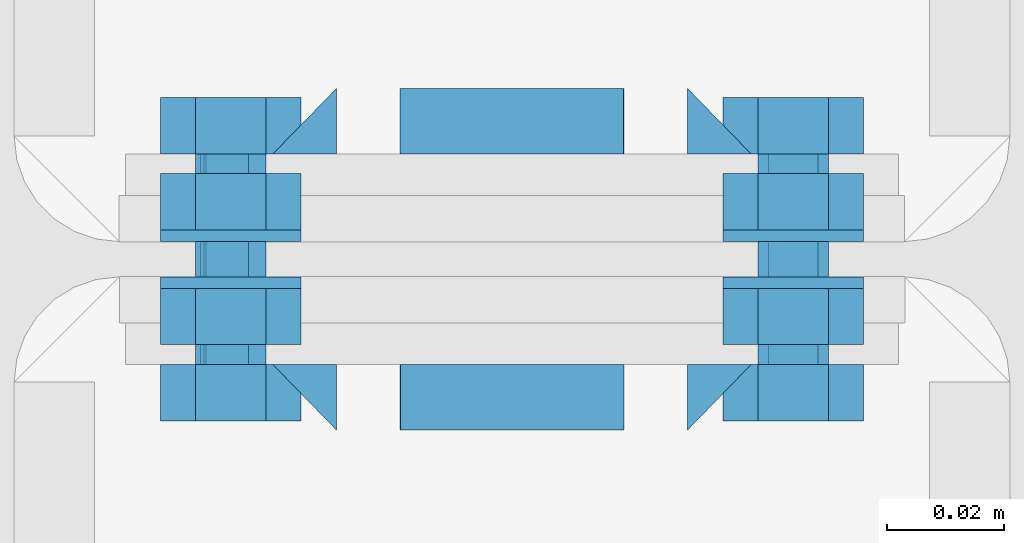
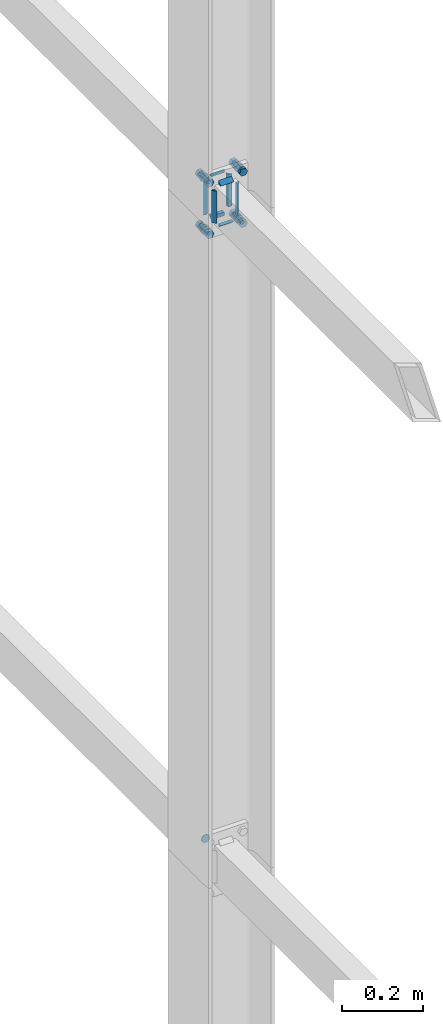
# One storey, part 182 of 251: 32 mechanical fasteners, 16 fasteners.
"""IFC4 building model written with IfcOpenShell, lengths in metres."""

from ifc_helpers import new_model, si_unit, frame, origin_with_axes, place, context, project, spatial, polyline, outline, extrude, type_object, element, save


model = new_model("IFC4")

# Units and contexts
model_context = context("Model", 3, precision=1e-05, world=origin_with_axes())
ifc_project = project(units=[si_unit("LENGTHUNIT", "METRE"), si_unit("AREAUNIT", "SQUARE_METRE"), si_unit("VOLUMEUNIT", "CUBIC_METRE"), si_unit("MASSUNIT", "GRAM", prefix="KILO"), si_unit("TIMEUNIT", "SECOND"), si_unit("PLANEANGLEUNIT", "RADIAN"), si_unit("SOLIDANGLEUNIT", "STERADIAN"), si_unit("THERMODYNAMICTEMPERATUREUNIT", "DEGREE_CELSIUS")], contexts=[model_context])

# Site, building, storey
placement_1 = place(None, origin_with_axes())
site = spatial("IfcSite", under=ifc_project, at=placement_1, Name="Italia", CompositionType="ELEMENT")
building = spatial("IfcBuilding", under=site, at=placement_1, Name="Deposito", CompositionType="ELEMENT")
storey = spatial("IfcBuildingStorey", under=building, at=placement_1, Name="Storey 0", CompositionType="ELEMENT", Elevation=0.0)

# Mechanical fastener
mechanical_fastener_type_1 = type_object("IfcMechanicalFastenerType", Name="Collegamenti -001_-002 -002_-001 -002_-003 -003_-002 -003_-004 -004_-003 -004_-008 -008_-004 -009_-010 -010_-009 -010_-011 -011_-010 -011_-012 -012_-011 -012_-016 -016_-012", PredefinedType="BOLT")
placement_2 = place(placement_1, origin_with_axes())
mechanical_fastener_1_placement = place(placement_2, origin_with_axes())
element("IfcMechanicalFastener", 1, at=mechanical_fastener_1_placement, inside=storey, type_object=mechanical_fastener_type_1, Name="Collegamenti -001_-002 -002_-001 -002_-003 -003_-002 -003_-004 -004_-003 -004_-008 -008_-004 -009_-010 -010_-009 -010_-011 -011_-010 -011_-012 -012_-011 -012_-016 -016_-012", NominalDiameter=0.024, context=model_context, shape_type="SweptSolid", body=[
    extrude(outline(polyline([(0.0, 0.0), (-0.000408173, -0.00310588), (-0.00160599, -0.00600004), (-0.00351334, -0.00848532), (-0.00599861, -0.0103923), (-0.00889397, -0.0115911), (-0.0119991, -0.012), (-0.0151043, -0.0115911), (-0.0179996, -0.0103923), (-0.0204849, -0.00848532), (-0.0223923, -0.00600004), (-0.0235901, -0.00310588), (-0.0239983, 0.0), (-0.0235901, 0.00310588), (-0.0223923, 0.00600004), (-0.0204849, 0.00848532), (-0.0179996, 0.0103923), (-0.0151043, 0.0115911), (-0.0119991, 0.012), (-0.00889397, 0.0115911), (-0.00599861, 0.0103923), (-0.00351334, 0.00848532), (-0.00160599, 0.00600004), (-0.000408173, 0.00310588), (0.0, 0.0)])), frame((19.94, 14.995, 1.078), z_axis=(0.0, 1.0, 0.0), x_axis=(-1.0, 0.0, 0.0)), (0.0, 0.0, 1.0), 0.00199986),
])

# Fasteners
fastener_type_1 = type_object("IfcFastenerType", Name="Collegamenti -001_-002 -002_-001 -002_-003 -003_-002 -003_-004 -004_-003 -004_-008 -008_-004 -009_-010 -010_-009 -010_-011 -011_-010 -011_-012 -012_-011 -012_-016 -016_-012", PredefinedType="WELD")
fastener_1_placement = place(placement_2, origin_with_axes())
element("IfcFastener", 2, at=fastener_1_placement, inside=storey, type_object=fastener_type_1, Name="Collegamenti -001_-002 -002_-001 -002_-003 -003_-002 -003_-004 -004_-003 -004_-008 -008_-004 -009_-010 -010_-009 -010_-011 -011_-010 -011_-012 -012_-011 -012_-016 -016_-012", context=model_context, shape_type="SweptSolid", body=[
    extrude(outline(polyline([(0.0, 0.0), (0.0111732, -0.0108383), (0.0, -0.0108383), (0.0, 0.0)])), frame((20.0191, 14.982, 3.07079), z_axis=(-1.0, 0.0, 0.0), x_axis=(0.0, -1.0, 0.0)), (0.0, 0.0, 1.0), 0.0381012),
])
fastener_type_2 = type_object("IfcFastenerType", Name="Collegamenti -001_-002 -002_-001 -002_-003 -003_-002 -003_-004 -004_-003 -004_-008 -008_-004 -009_-010 -010_-009 -010_-011 -011_-010 -011_-012 -012_-011 -012_-016 -016_-012", PredefinedType="WELD")
fastener_2_placement = place(placement_2, origin_with_axes())
element("IfcFastener", 3, at=fastener_2_placement, inside=storey, type_object=fastener_type_2, Name="Collegamenti -001_-002 -002_-001 -002_-003 -003_-002 -003_-004 -004_-003 -004_-008 -008_-004 -009_-010 -010_-009 -010_-011 -011_-010 -011_-012 -012_-011 -012_-016 -016_-012", context=model_context, shape_type="SweptSolid", body=[
    extrude(outline(polyline([(0.0, 0.0), (-0.0111732, 0.0108376), (0.0, 0.0108376), (0.0, 0.0)])), frame((20.0408, 14.982, 2.95095), z_axis=(0.0, 0.0, 1.0), x_axis=(0.0, 1.0, 0.0)), (0.0, 0.0, 1.0), 0.0980997),
])
fastener_type_3 = type_object("IfcFastenerType", Name="Collegamenti -001_-002 -002_-001 -002_-003 -003_-002 -003_-004 -004_-003 -004_-008 -008_-004 -009_-010 -010_-009 -010_-011 -011_-010 -011_-012 -012_-011 -012_-016 -016_-012", PredefinedType="WELD")
fastener_3_placement = place(placement_2, origin_with_axes())
element("IfcFastener", 4, at=fastener_3_placement, inside=storey, type_object=fastener_type_3, Name="Collegamenti -001_-002 -002_-001 -002_-003 -003_-002 -003_-004 -004_-003 -004_-008 -008_-004 -009_-010 -010_-009 -010_-011 -011_-010 -011_-012 -012_-011 -012_-016 -016_-012", context=model_context, shape_type="SweptSolid", body=[
    extrude(outline(polyline([(0.0, 0.0), (-0.0111732, 0.0108376), (0.0, 0.0108376), (0.0, 0.0)])), frame((19.9592, 14.982, 3.04905), z_axis=(0.0, 0.0, -1.0), x_axis=(0.0, 1.0, 0.0)), (0.0, 0.0, 1.0), 0.0980997),
])
fastener_type_4 = type_object("IfcFastenerType", Name="Collegamenti -001_-002 -002_-001 -002_-003 -003_-002 -003_-004 -004_-003 -004_-008 -008_-004 -009_-010 -010_-009 -010_-011 -011_-010 -011_-012 -012_-011 -012_-016 -016_-012", PredefinedType="WELD")
fastener_4_placement = place(placement_2, origin_with_axes())
element("IfcFastener", 5, at=fastener_4_placement, inside=storey, type_object=fastener_type_4, Name="Collegamenti -001_-002 -002_-001 -002_-003 -003_-002 -003_-004 -004_-003 -004_-008 -008_-004 -009_-010 -010_-009 -010_-011 -011_-010 -011_-012 -012_-011 -012_-016 -016_-012", context=model_context, shape_type="SweptSolid", body=[
    extrude(outline(polyline([(0.0, 0.0), (-0.0111732, 0.0108383), (0.0, 0.0108383), (0.0, 0.0)])), frame((19.9809, 14.982, 2.92921), z_axis=(1.0, 0.0, 0.0), x_axis=(0.0, 1.0, 0.0)), (0.0, 0.0, 1.0), 0.0381012),
])
fastener_type_5 = type_object("IfcFastenerType", Name="Collegamenti -001_-002 -002_-001 -002_-003 -003_-002 -003_-004 -004_-003 -004_-008 -008_-004 -009_-010 -010_-009 -010_-011 -011_-010 -011_-012 -012_-011 -012_-016 -016_-012", PredefinedType="WELD")
fastener_5_placement = place(placement_2, origin_with_axes())
element("IfcFastener", 6, at=fastener_5_placement, inside=storey, type_object=fastener_type_5, Name="Collegamenti -001_-002 -002_-001 -002_-003 -003_-002 -003_-004 -004_-003 -004_-008 -008_-004 -009_-010 -010_-009 -010_-011 -011_-010 -011_-012 -012_-011 -012_-016 -016_-012", context=model_context, shape_type="SweptSolid", body=[
    extrude(outline(polyline([(0.0, 0.0), (0.0111732, -0.0108383), (0.0, -0.0108383), (0.0, 0.0)])), frame((20.0191, 14.982, 3.07079), z_axis=(-1.0, 0.0, 0.0), x_axis=(0.0, -1.0, 0.0)), (0.0, 0.0, 1.0), 0.0381012),
])
fastener_type_6 = type_object("IfcFastenerType", Name="Collegamenti -001_-002 -002_-001 -002_-003 -003_-002 -003_-004 -004_-003 -004_-008 -008_-004 -009_-010 -010_-009 -010_-011 -011_-010 -011_-012 -012_-011 -012_-016 -016_-012", PredefinedType="WELD")
fastener_6_placement = place(placement_2, origin_with_axes())
element("IfcFastener", 7, at=fastener_6_placement, inside=storey, type_object=fastener_type_6, Name="Collegamenti -001_-002 -002_-001 -002_-003 -003_-002 -003_-004 -004_-003 -004_-008 -008_-004 -009_-010 -010_-009 -010_-011 -011_-010 -011_-012 -012_-011 -012_-016 -016_-012", context=model_context, shape_type="SweptSolid", body=[
    extrude(outline(polyline([(0.0, 0.0), (-0.0111732, 0.0108376), (0.0, 0.0108376), (0.0, 0.0)])), frame((20.0408, 14.982, 2.95095), z_axis=(0.0, 0.0, 1.0), x_axis=(0.0, 1.0, 0.0)), (0.0, 0.0, 1.0), 0.0980997),
])
fastener_type_7 = type_object("IfcFastenerType", Name="Collegamenti -001_-002 -002_-001 -002_-003 -003_-002 -003_-004 -004_-003 -004_-008 -008_-004 -009_-010 -010_-009 -010_-011 -011_-010 -011_-012 -012_-011 -012_-016 -016_-012", PredefinedType="WELD")
fastener_7_placement = place(placement_2, origin_with_axes())
element("IfcFastener", 8, at=fastener_7_placement, inside=storey, type_object=fastener_type_7, Name="Collegamenti -001_-002 -002_-001 -002_-003 -003_-002 -003_-004 -004_-003 -004_-008 -008_-004 -009_-010 -010_-009 -010_-011 -011_-010 -011_-012 -012_-011 -012_-016 -016_-012", context=model_context, shape_type="SweptSolid", body=[
    extrude(outline(polyline([(0.0, 0.0), (-0.0111732, 0.0108376), (0.0, 0.0108376), (0.0, 0.0)])), frame((19.9592, 14.982, 3.04905), z_axis=(0.0, 0.0, -1.0), x_axis=(0.0, 1.0, 0.0)), (0.0, 0.0, 1.0), 0.0980997),
])
fastener_type_8 = type_object("IfcFastenerType", Name="Collegamenti -001_-002 -002_-001 -002_-003 -003_-002 -003_-004 -004_-003 -004_-008 -008_-004 -009_-010 -010_-009 -010_-011 -011_-010 -011_-012 -012_-011 -012_-016 -016_-012", PredefinedType="WELD")
fastener_8_placement = place(placement_2, origin_with_axes())
element("IfcFastener", 9, at=fastener_8_placement, inside=storey, type_object=fastener_type_8, Name="Collegamenti -001_-002 -002_-001 -002_-003 -003_-002 -003_-004 -004_-003 -004_-008 -008_-004 -009_-010 -010_-009 -010_-011 -011_-010 -011_-012 -012_-011 -012_-016 -016_-012", context=model_context, shape_type="SweptSolid", body=[
    extrude(outline(polyline([(0.0, 0.0), (-0.0111732, 0.0108383), (0.0, 0.0108383), (0.0, 0.0)])), frame((19.9809, 14.982, 2.92921), z_axis=(1.0, 0.0, 0.0), x_axis=(0.0, 1.0, 0.0)), (0.0, 0.0, 1.0), 0.0381012),
])

# Mechanical fasteners
mechanical_fastener_type_2 = type_object("IfcMechanicalFastenerType", Name="Collegamenti -001_-002 -002_-001 -002_-003 -003_-002 -003_-004 -004_-003 -004_-008 -008_-004 -009_-010 -010_-009 -010_-011 -011_-010 -011_-012 -012_-011 -012_-016 -016_-012", PredefinedType="BOLT")
mechanical_fastener_2_placement = place(placement_2, origin_with_axes())
element("IfcMechanicalFastener", 10, at=mechanical_fastener_2_placement, inside=storey, type_object=mechanical_fastener_type_2, Name="Collegamenti -001_-002 -002_-001 -002_-003 -003_-002 -003_-004 -004_-003 -004_-008 -008_-004 -009_-010 -010_-009 -010_-011 -011_-010 -011_-012 -012_-011 -012_-016 -016_-012", NominalDiameter=0.0119992, context=model_context, shape_type="SweptSolid", body=[
    extrude(outline(polyline([(0.0, 0.0), (-0.012001, 0.0), (-0.0179996, 0.0103922), (-0.012001, 0.0207846), (0.0, 0.0207846), (0.00600052, 0.0103922), (0.0, 0.0)])), frame((19.958, 14.982, 2.91161), z_axis=(0.0, -1.0, 0.0), x_axis=(1.0, 0.0, 0.0)), (0.0, 0.0, 1.0), 0.00960064),
])
mechanical_fastener_type_3 = type_object("IfcMechanicalFastenerType", Name="Collegamenti -001_-002 -002_-001 -002_-003 -003_-002 -003_-004 -004_-003 -004_-008 -008_-004 -009_-010 -010_-009 -010_-011 -011_-010 -011_-012 -012_-011 -012_-016 -016_-012", PredefinedType="BOLT")
mechanical_fastener_3_placement = place(placement_2, origin_with_axes())
element("IfcMechanicalFastener", 11, at=mechanical_fastener_3_placement, inside=storey, type_object=mechanical_fastener_type_3, Name="Collegamenti -001_-002 -002_-001 -002_-003 -003_-002 -003_-004 -004_-003 -004_-008 -008_-004 -009_-010 -010_-009 -010_-011 -011_-010 -011_-012 -012_-011 -012_-016 -016_-012", NominalDiameter=0.012, context=model_context, shape_type="SweptSolid", body=[
    extrude(outline(polyline([(0.0, 0.0), (-0.000204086, -0.00155282), (-0.000804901, -0.00300002), (-0.00175858, -0.00424266), (-0.00300026, -0.00519609), (-0.00444794, -0.00579548), (-0.00600052, -0.00600004), (-0.0075531, -0.00579548), (-0.00900078, -0.00519609), (-0.0102425, -0.00424266), (-0.0111961, -0.00300002), (-0.011797, -0.00155282), (-0.012001, 0.0), (-0.011797, 0.00155282), (-0.0111961, 0.00300002), (-0.0102425, 0.00424266), (-0.00900078, 0.00519609), (-0.0075531, 0.00579548), (-0.00600052, 0.00600004), (-0.00444794, 0.00579548), (-0.00300026, 0.00519609), (-0.00175858, 0.00424266), (-0.000804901, 0.00300002), (-0.000204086, 0.00155282), (0.0, 0.0)])), frame((19.958, 15.021, 2.922), z_axis=(0.0, -1.0, 0.0), x_axis=(1.0, 0.0, 0.0)), (0.0, 0.0, 1.0), 0.0389996),
])
mechanical_fastener_type_4 = type_object("IfcMechanicalFastenerType", Name="Collegamenti -001_-002 -002_-001 -002_-003 -003_-002 -003_-004 -004_-003 -004_-008 -008_-004 -009_-010 -010_-009 -010_-011 -011_-010 -011_-012 -012_-011 -012_-016 -016_-012", PredefinedType="BOLT")
mechanical_fastener_4_placement = place(placement_2, origin_with_axes())
element("IfcMechanicalFastener", 12, at=mechanical_fastener_4_placement, inside=storey, type_object=mechanical_fastener_type_4, Name="Collegamenti -001_-002 -002_-001 -002_-003 -003_-002 -003_-004 -004_-003 -004_-008 -008_-004 -009_-010 -010_-009 -010_-011 -011_-010 -011_-012 -012_-011 -012_-016 -016_-012", NominalDiameter=0.0119992, context=model_context, shape_type="SweptSolid", body=[
    extrude(outline(polyline([(0.0, 0.0), (-0.012001, 0.0), (-0.0179996, 0.0103922), (-0.012001, 0.0207846), (0.0, 0.0207846), (0.00600052, 0.0103922), (0.0, 0.0)])), frame((19.958, 15.0146, 2.91161), z_axis=(0.0, -1.0, 0.0), x_axis=(1.0, 0.0, 0.0)), (0.0, 0.0, 1.0), 0.00959969),
])
mechanical_fastener_type_5 = type_object("IfcMechanicalFastenerType", Name="Collegamenti -001_-002 -002_-001 -002_-003 -003_-002 -003_-004 -004_-003 -004_-008 -008_-004 -009_-010 -010_-009 -010_-011 -011_-010 -011_-012 -012_-011 -012_-016 -016_-012", PredefinedType="BOLT")
mechanical_fastener_5_placement = place(placement_2, origin_with_axes())
element("IfcMechanicalFastener", 13, at=mechanical_fastener_5_placement, inside=storey, type_object=mechanical_fastener_type_5, Name="Collegamenti -001_-002 -002_-001 -002_-003 -003_-002 -003_-004 -004_-003 -004_-008 -008_-004 -009_-010 -010_-009 -010_-011 -011_-010 -011_-012 -012_-011 -012_-016 -016_-012", NominalDiameter=0.024, context=model_context, shape_type="SweptSolid", body=[
    extrude(outline(polyline([(0.0, 0.0), (-0.000408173, -0.00310588), (-0.00160599, -0.00600004), (-0.00351334, -0.00848532), (-0.00599861, -0.0103922), (-0.00889397, -0.0115912), (-0.0119991, -0.0120001), (-0.0151043, -0.0115912), (-0.0179996, -0.0103922), (-0.0204849, -0.00848532), (-0.0223923, -0.00600004), (-0.0235901, -0.00310588), (-0.0239983, 0.0), (-0.0235901, 0.00310588), (-0.0223923, 0.00600004), (-0.0204849, 0.00848532), (-0.0179996, 0.0103922), (-0.0151043, 0.0115912), (-0.0119991, 0.0120001), (-0.00889397, 0.0115912), (-0.00599861, 0.0103922), (-0.00351334, 0.00848532), (-0.00160599, 0.00600004), (-0.000408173, 0.00310588), (0.0, 0.0)])), frame((19.964, 15.005, 2.922), z_axis=(0.0, -1.0, 0.0), x_axis=(1.0, 0.0, 0.0)), (0.0, 0.0, 1.0), 0.00199986),
])
mechanical_fastener_type_6 = type_object("IfcMechanicalFastenerType", Name="Collegamenti -001_-002 -002_-001 -002_-003 -003_-002 -003_-004 -004_-003 -004_-008 -008_-004 -009_-010 -010_-009 -010_-011 -011_-010 -011_-012 -012_-011 -012_-016 -016_-012", PredefinedType="BOLT")
mechanical_fastener_6_placement = place(placement_2, origin_with_axes())
element("IfcMechanicalFastener", 14, at=mechanical_fastener_6_placement, inside=storey, type_object=mechanical_fastener_type_6, Name="Collegamenti -001_-002 -002_-001 -002_-003 -003_-002 -003_-004 -004_-003 -004_-008 -008_-004 -009_-010 -010_-009 -010_-011 -011_-010 -011_-012 -012_-011 -012_-016 -016_-012", NominalDiameter=0.0119992, context=model_context, shape_type="SweptSolid", body=[
    extrude(outline(polyline([(0.0, 0.0), (-0.012001, 0.0), (-0.0180016, 0.0103922), (-0.012001, 0.0207846), (0.0, 0.0207846), (0.00599861, 0.0103922), (0.0, 0.0)])), frame((20.054, 14.982, 2.91161), z_axis=(0.0, -1.0, 0.0), x_axis=(1.0, 0.0, 0.0)), (0.0, 0.0, 1.0), 0.00960064),
])
mechanical_fastener_type_7 = type_object("IfcMechanicalFastenerType", Name="Collegamenti -001_-002 -002_-001 -002_-003 -003_-002 -003_-004 -004_-003 -004_-008 -008_-004 -009_-010 -010_-009 -010_-011 -011_-010 -011_-012 -012_-011 -012_-016 -016_-012", PredefinedType="BOLT")
mechanical_fastener_7_placement = place(placement_2, origin_with_axes())
element("IfcMechanicalFastener", 15, at=mechanical_fastener_7_placement, inside=storey, type_object=mechanical_fastener_type_7, Name="Collegamenti -001_-002 -002_-001 -002_-003 -003_-002 -003_-004 -004_-003 -004_-008 -008_-004 -009_-010 -010_-009 -010_-011 -011_-010 -011_-012 -012_-011 -012_-016 -016_-012", NominalDiameter=0.012, context=model_context, shape_type="SweptSolid", body=[
    extrude(outline(polyline([(0.0, 0.0), (-0.000204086, -0.00155282), (-0.000804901, -0.00300002), (-0.00175858, -0.00424266), (-0.00300026, -0.00519609), (-0.00444794, -0.00579548), (-0.00600052, -0.00600004), (-0.0075531, -0.00579548), (-0.00900078, -0.00519609), (-0.0102425, -0.00424266), (-0.0111961, -0.00300002), (-0.011797, -0.00155282), (-0.012001, 0.0), (-0.011797, 0.00155282), (-0.0111961, 0.00300002), (-0.0102425, 0.00424266), (-0.00900078, 0.00519609), (-0.0075531, 0.00579548), (-0.00600052, 0.00600004), (-0.00444794, 0.00579548), (-0.00300026, 0.00519609), (-0.00175858, 0.00424266), (-0.000804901, 0.00300002), (-0.000204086, 0.00155282), (0.0, 0.0)])), frame((20.054, 15.021, 2.922), z_axis=(0.0, -1.0, 0.0), x_axis=(1.0, 0.0, 0.0)), (0.0, 0.0, 1.0), 0.0389996),
])
mechanical_fastener_type_8 = type_object("IfcMechanicalFastenerType", Name="Collegamenti -001_-002 -002_-001 -002_-003 -003_-002 -003_-004 -004_-003 -004_-008 -008_-004 -009_-010 -010_-009 -010_-011 -011_-010 -011_-012 -012_-011 -012_-016 -016_-012", PredefinedType="BOLT")
mechanical_fastener_8_placement = place(placement_2, origin_with_axes())
element("IfcMechanicalFastener", 16, at=mechanical_fastener_8_placement, inside=storey, type_object=mechanical_fastener_type_8, Name="Collegamenti -001_-002 -002_-001 -002_-003 -003_-002 -003_-004 -004_-003 -004_-008 -008_-004 -009_-010 -010_-009 -010_-011 -011_-010 -011_-012 -012_-011 -012_-016 -016_-012", NominalDiameter=0.0119992, context=model_context, shape_type="SweptSolid", body=[
    extrude(outline(polyline([(0.0, 0.0), (-0.012001, 0.0), (-0.0180016, 0.0103922), (-0.012001, 0.0207846), (0.0, 0.0207846), (0.00599861, 0.0103922), (0.0, 0.0)])), frame((20.054, 15.0146, 2.91161), z_axis=(0.0, -1.0, 0.0), x_axis=(1.0, 0.0, 0.0)), (0.0, 0.0, 1.0), 0.00959969),
])
mechanical_fastener_type_9 = type_object("IfcMechanicalFastenerType", Name="Collegamenti -001_-002 -002_-001 -002_-003 -003_-002 -003_-004 -004_-003 -004_-008 -008_-004 -009_-010 -010_-009 -010_-011 -011_-010 -011_-012 -012_-011 -012_-016 -016_-012", PredefinedType="BOLT")
mechanical_fastener_9_placement = place(placement_2, origin_with_axes())
element("IfcMechanicalFastener", 17, at=mechanical_fastener_9_placement, inside=storey, type_object=mechanical_fastener_type_9, Name="Collegamenti -001_-002 -002_-001 -002_-003 -003_-002 -003_-004 -004_-003 -004_-008 -008_-004 -009_-010 -010_-009 -010_-011 -011_-010 -011_-012 -012_-011 -012_-016 -016_-012", NominalDiameter=0.024, context=model_context, shape_type="SweptSolid", body=[
    extrude(outline(polyline([(0.0, 0.0), (-0.000408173, -0.00310588), (-0.00160599, -0.00600004), (-0.00351334, -0.00848532), (-0.00599861, -0.0103922), (-0.00889397, -0.0115912), (-0.0119991, -0.0120001), (-0.0151043, -0.0115912), (-0.0179996, -0.0103922), (-0.0204849, -0.00848532), (-0.0223923, -0.00600004), (-0.0235901, -0.00310588), (-0.0239983, 0.0), (-0.0235901, 0.00310588), (-0.0223923, 0.00600004), (-0.0204849, 0.00848532), (-0.0179996, 0.0103922), (-0.0151043, 0.0115912), (-0.0119991, 0.0120001), (-0.00889397, 0.0115912), (-0.00599861, 0.0103922), (-0.00351334, 0.00848532), (-0.00160599, 0.00600004), (-0.000408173, 0.00310588), (0.0, 0.0)])), frame((20.06, 15.005, 2.922), z_axis=(0.0, -1.0, 0.0), x_axis=(1.0, 0.0, 0.0)), (0.0, 0.0, 1.0), 0.00199986),
])
mechanical_fastener_type_10 = type_object("IfcMechanicalFastenerType", Name="Collegamenti -001_-002 -002_-001 -002_-003 -003_-002 -003_-004 -004_-003 -004_-008 -008_-004 -009_-010 -010_-009 -010_-011 -011_-010 -011_-012 -012_-011 -012_-016 -016_-012", PredefinedType="BOLT")
mechanical_fastener_10_placement = place(placement_2, origin_with_axes())
element("IfcMechanicalFastener", 18, at=mechanical_fastener_10_placement, inside=storey, type_object=mechanical_fastener_type_10, Name="Collegamenti -001_-002 -002_-001 -002_-003 -003_-002 -003_-004 -004_-003 -004_-008 -008_-004 -009_-010 -010_-009 -010_-011 -011_-010 -011_-012 -012_-011 -012_-016 -016_-012", NominalDiameter=0.0119992, context=model_context, shape_type="SweptSolid", body=[
    extrude(outline(polyline([(0.0, 0.0), (-0.012001, 0.0), (-0.0179996, 0.0103924), (-0.012001, 0.0207846), (0.0, 0.0207846), (0.00600052, 0.0103924), (0.0, 0.0)])), frame((19.958, 14.982, 3.06761), z_axis=(0.0, -1.0, 0.0), x_axis=(1.0, 0.0, 0.0)), (0.0, 0.0, 1.0), 0.00960064),
])
mechanical_fastener_type_11 = type_object("IfcMechanicalFastenerType", Name="Collegamenti -001_-002 -002_-001 -002_-003 -003_-002 -003_-004 -004_-003 -004_-008 -008_-004 -009_-010 -010_-009 -010_-011 -011_-010 -011_-012 -012_-011 -012_-016 -016_-012", PredefinedType="BOLT")
mechanical_fastener_11_placement = place(placement_2, origin_with_axes())
element("IfcMechanicalFastener", 19, at=mechanical_fastener_11_placement, inside=storey, type_object=mechanical_fastener_type_11, Name="Collegamenti -001_-002 -002_-001 -002_-003 -003_-002 -003_-004 -004_-003 -004_-008 -008_-004 -009_-010 -010_-009 -010_-011 -011_-010 -011_-012 -012_-011 -012_-016 -016_-012", NominalDiameter=0.012, context=model_context, shape_type="SweptSolid", body=[
    extrude(outline(polyline([(0.0, 0.0), (-0.000204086, -0.00155282), (-0.000804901, -0.00300002), (-0.00175858, -0.00424266), (-0.00300026, -0.00519609), (-0.00444794, -0.00579548), (-0.00600052, -0.00600004), (-0.0075531, -0.00579548), (-0.00900078, -0.00519609), (-0.0102425, -0.00424266), (-0.0111961, -0.00300002), (-0.011797, -0.00155282), (-0.012001, 0.0), (-0.011797, 0.00155282), (-0.0111961, 0.00300002), (-0.0102425, 0.00424266), (-0.00900078, 0.00519609), (-0.0075531, 0.00579548), (-0.00600052, 0.00600004), (-0.00444794, 0.00579548), (-0.00300026, 0.00519609), (-0.00175858, 0.00424266), (-0.000804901, 0.00300002), (-0.000204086, 0.00155282), (0.0, 0.0)])), frame((19.958, 15.021, 3.078), z_axis=(0.0, -1.0, 0.0), x_axis=(1.0, 0.0, 0.0)), (0.0, 0.0, 1.0), 0.0389996),
])
mechanical_fastener_type_12 = type_object("IfcMechanicalFastenerType", Name="Collegamenti -001_-002 -002_-001 -002_-003 -003_-002 -003_-004 -004_-003 -004_-008 -008_-004 -009_-010 -010_-009 -010_-011 -011_-010 -011_-012 -012_-011 -012_-016 -016_-012", PredefinedType="BOLT")
mechanical_fastener_12_placement = place(placement_2, origin_with_axes())
element("IfcMechanicalFastener", 20, at=mechanical_fastener_12_placement, inside=storey, type_object=mechanical_fastener_type_12, Name="Collegamenti -001_-002 -002_-001 -002_-003 -003_-002 -003_-004 -004_-003 -004_-008 -008_-004 -009_-010 -010_-009 -010_-011 -011_-010 -011_-012 -012_-011 -012_-016 -016_-012", NominalDiameter=0.0119992, context=model_context, shape_type="SweptSolid", body=[
    extrude(outline(polyline([(0.0, 0.0), (-0.012001, 0.0), (-0.0179996, 0.0103924), (-0.012001, 0.0207846), (0.0, 0.0207846), (0.00600052, 0.0103924), (0.0, 0.0)])), frame((19.958, 15.0146, 3.06761), z_axis=(0.0, -1.0, 0.0), x_axis=(1.0, 0.0, 0.0)), (0.0, 0.0, 1.0), 0.00959969),
])
mechanical_fastener_type_13 = type_object("IfcMechanicalFastenerType", Name="Collegamenti -001_-002 -002_-001 -002_-003 -003_-002 -003_-004 -004_-003 -004_-008 -008_-004 -009_-010 -010_-009 -010_-011 -011_-010 -011_-012 -012_-011 -012_-016 -016_-012", PredefinedType="BOLT")
mechanical_fastener_13_placement = place(placement_2, origin_with_axes())
element("IfcMechanicalFastener", 21, at=mechanical_fastener_13_placement, inside=storey, type_object=mechanical_fastener_type_13, Name="Collegamenti -001_-002 -002_-001 -002_-003 -003_-002 -003_-004 -004_-003 -004_-008 -008_-004 -009_-010 -010_-009 -010_-011 -011_-010 -011_-012 -012_-011 -012_-016 -016_-012", NominalDiameter=0.024, context=model_context, shape_type="SweptSolid", body=[
    extrude(outline(polyline([(0.0, 0.0), (-0.000408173, -0.00310588), (-0.00160599, -0.00600004), (-0.00351334, -0.00848532), (-0.00599861, -0.0103922), (-0.00889397, -0.0115912), (-0.0119991, -0.0120001), (-0.0151043, -0.0115912), (-0.0179996, -0.0103922), (-0.0204849, -0.00848532), (-0.0223923, -0.00600004), (-0.0235901, -0.00310588), (-0.0239983, 0.0), (-0.0235901, 0.00310588), (-0.0223923, 0.00600004), (-0.0204849, 0.00848532), (-0.0179996, 0.0103922), (-0.0151043, 0.0115912), (-0.0119991, 0.0120001), (-0.00889397, 0.0115912), (-0.00599861, 0.0103922), (-0.00351334, 0.00848532), (-0.00160599, 0.00600004), (-0.000408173, 0.00310588), (0.0, 0.0)])), frame((19.964, 15.005, 3.078), z_axis=(0.0, -1.0, 0.0), x_axis=(1.0, 0.0, 0.0)), (0.0, 0.0, 1.0), 0.00199986),
])
mechanical_fastener_type_14 = type_object("IfcMechanicalFastenerType", Name="Collegamenti -001_-002 -002_-001 -002_-003 -003_-002 -003_-004 -004_-003 -004_-008 -008_-004 -009_-010 -010_-009 -010_-011 -011_-010 -011_-012 -012_-011 -012_-016 -016_-012", PredefinedType="BOLT")
mechanical_fastener_14_placement = place(placement_2, origin_with_axes())
element("IfcMechanicalFastener", 22, at=mechanical_fastener_14_placement, inside=storey, type_object=mechanical_fastener_type_14, Name="Collegamenti -001_-002 -002_-001 -002_-003 -003_-002 -003_-004 -004_-003 -004_-008 -008_-004 -009_-010 -010_-009 -010_-011 -011_-010 -011_-012 -012_-011 -012_-016 -016_-012", NominalDiameter=0.0119992, context=model_context, shape_type="SweptSolid", body=[
    extrude(outline(polyline([(0.0, 0.0), (-0.012001, 0.0), (-0.0180016, 0.0103924), (-0.012001, 0.0207846), (0.0, 0.0207846), (0.00599861, 0.0103924), (0.0, 0.0)])), frame((20.054, 14.982, 3.06761), z_axis=(0.0, -1.0, 0.0), x_axis=(1.0, 0.0, 0.0)), (0.0, 0.0, 1.0), 0.00960064),
])
mechanical_fastener_type_15 = type_object("IfcMechanicalFastenerType", Name="Collegamenti -001_-002 -002_-001 -002_-003 -003_-002 -003_-004 -004_-003 -004_-008 -008_-004 -009_-010 -010_-009 -010_-011 -011_-010 -011_-012 -012_-011 -012_-016 -016_-012", PredefinedType="BOLT")
mechanical_fastener_15_placement = place(placement_2, origin_with_axes())
element("IfcMechanicalFastener", 23, at=mechanical_fastener_15_placement, inside=storey, type_object=mechanical_fastener_type_15, Name="Collegamenti -001_-002 -002_-001 -002_-003 -003_-002 -003_-004 -004_-003 -004_-008 -008_-004 -009_-010 -010_-009 -010_-011 -011_-010 -011_-012 -012_-011 -012_-016 -016_-012", NominalDiameter=0.012, context=model_context, shape_type="SweptSolid", body=[
    extrude(outline(polyline([(0.0, 0.0), (-0.000204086, -0.00155282), (-0.000804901, -0.00300002), (-0.00175858, -0.00424266), (-0.00300026, -0.00519609), (-0.00444794, -0.00579548), (-0.00600052, -0.00600004), (-0.0075531, -0.00579548), (-0.00900078, -0.00519609), (-0.0102425, -0.00424266), (-0.0111961, -0.00300002), (-0.011797, -0.00155282), (-0.012001, 0.0), (-0.011797, 0.00155282), (-0.0111961, 0.00300002), (-0.0102425, 0.00424266), (-0.00900078, 0.00519609), (-0.0075531, 0.00579548), (-0.00600052, 0.00600004), (-0.00444794, 0.00579548), (-0.00300026, 0.00519609), (-0.00175858, 0.00424266), (-0.000804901, 0.00300002), (-0.000204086, 0.00155282), (0.0, 0.0)])), frame((20.054, 15.021, 3.078), z_axis=(0.0, -1.0, 0.0), x_axis=(1.0, 0.0, 0.0)), (0.0, 0.0, 1.0), 0.0389996),
])
mechanical_fastener_type_16 = type_object("IfcMechanicalFastenerType", Name="Collegamenti -001_-002 -002_-001 -002_-003 -003_-002 -003_-004 -004_-003 -004_-008 -008_-004 -009_-010 -010_-009 -010_-011 -011_-010 -011_-012 -012_-011 -012_-016 -016_-012", PredefinedType="BOLT")
mechanical_fastener_16_placement = place(placement_2, origin_with_axes())
element("IfcMechanicalFastener", 24, at=mechanical_fastener_16_placement, inside=storey, type_object=mechanical_fastener_type_16, Name="Collegamenti -001_-002 -002_-001 -002_-003 -003_-002 -003_-004 -004_-003 -004_-008 -008_-004 -009_-010 -010_-009 -010_-011 -011_-010 -011_-012 -012_-011 -012_-016 -016_-012", NominalDiameter=0.0119992, context=model_context, shape_type="SweptSolid", body=[
    extrude(outline(polyline([(0.0, 0.0), (-0.012001, 0.0), (-0.0180016, 0.0103924), (-0.012001, 0.0207846), (0.0, 0.0207846), (0.00599861, 0.0103924), (0.0, 0.0)])), frame((20.054, 15.0146, 3.06761), z_axis=(0.0, -1.0, 0.0), x_axis=(1.0, 0.0, 0.0)), (0.0, 0.0, 1.0), 0.00959969),
])
mechanical_fastener_type_17 = type_object("IfcMechanicalFastenerType", Name="Collegamenti -001_-002 -002_-001 -002_-003 -003_-002 -003_-004 -004_-003 -004_-008 -008_-004 -009_-010 -010_-009 -010_-011 -011_-010 -011_-012 -012_-011 -012_-016 -016_-012", PredefinedType="BOLT")
mechanical_fastener_17_placement = place(placement_2, origin_with_axes())
element("IfcMechanicalFastener", 25, at=mechanical_fastener_17_placement, inside=storey, type_object=mechanical_fastener_type_17, Name="Collegamenti -001_-002 -002_-001 -002_-003 -003_-002 -003_-004 -004_-003 -004_-008 -008_-004 -009_-010 -010_-009 -010_-011 -011_-010 -011_-012 -012_-011 -012_-016 -016_-012", NominalDiameter=0.024, context=model_context, shape_type="SweptSolid", body=[
    extrude(outline(polyline([(0.0, 0.0), (-0.000408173, -0.00310588), (-0.00160599, -0.00600004), (-0.00351334, -0.00848532), (-0.00599861, -0.0103922), (-0.00889397, -0.0115912), (-0.0119991, -0.0120001), (-0.0151043, -0.0115912), (-0.0179996, -0.0103922), (-0.0204849, -0.00848532), (-0.0223923, -0.00600004), (-0.0235901, -0.00310588), (-0.0239983, 0.0), (-0.0235901, 0.00310588), (-0.0223923, 0.00600004), (-0.0204849, 0.00848532), (-0.0179996, 0.0103922), (-0.0151043, 0.0115912), (-0.0119991, 0.0120001), (-0.00889397, 0.0115912), (-0.00599861, 0.0103922), (-0.00351334, 0.00848532), (-0.00160599, 0.00600004), (-0.000408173, 0.00310588), (0.0, 0.0)])), frame((20.06, 15.005, 3.078), z_axis=(0.0, -1.0, 0.0), x_axis=(1.0, 0.0, 0.0)), (0.0, 0.0, 1.0), 0.00199986),
])

# Fasteners
fastener_type_9 = type_object("IfcFastenerType", Name="Collegamenti -001_-002 -002_-001 -002_-003 -003_-002 -003_-004 -004_-003 -004_-008 -008_-004 -009_-010 -010_-009 -010_-011 -011_-010 -011_-012 -012_-011 -012_-016 -016_-012", PredefinedType="WELD")
fastener_9_placement = place(placement_2, origin_with_axes())
element("IfcFastener", 26, at=fastener_9_placement, inside=storey, type_object=fastener_type_9, Name="Collegamenti -001_-002 -002_-001 -002_-003 -003_-002 -003_-004 -004_-003 -004_-008 -008_-004 -009_-010 -010_-009 -010_-011 -011_-010 -011_-012 -012_-011 -012_-016 -016_-012", context=model_context, shape_type="SweptSolid", body=[
    extrude(outline(polyline([(0.0, 0.0), (0.0111732, -0.0108383), (0.0, -0.0108383), (0.0, 0.0)])), frame((19.9809, 15.018, 3.07079), z_axis=(1.0, 0.0, 0.0), x_axis=(0.0, 1.0, 0.0)), (0.0, 0.0, 1.0), 0.0381012),
])
fastener_type_10 = type_object("IfcFastenerType", Name="Collegamenti -001_-002 -002_-001 -002_-003 -003_-002 -003_-004 -004_-003 -004_-008 -008_-004 -009_-010 -010_-009 -010_-011 -011_-010 -011_-012 -012_-011 -012_-016 -016_-012", PredefinedType="WELD")
fastener_10_placement = place(placement_2, origin_with_axes())
element("IfcFastener", 27, at=fastener_10_placement, inside=storey, type_object=fastener_type_10, Name="Collegamenti -001_-002 -002_-001 -002_-003 -003_-002 -003_-004 -004_-003 -004_-008 -008_-004 -009_-010 -010_-009 -010_-011 -011_-010 -011_-012 -012_-011 -012_-016 -016_-012", context=model_context, shape_type="SweptSolid", body=[
    extrude(outline(polyline([(0.0, 0.0), (0.0111732, -0.0108376), (0.0, -0.0108376), (0.0, 0.0)])), frame((19.9592, 15.018, 2.95095), z_axis=(0.0, 0.0, 1.0), x_axis=(0.0, 1.0, 0.0)), (0.0, 0.0, 1.0), 0.0980997),
])
fastener_type_11 = type_object("IfcFastenerType", Name="Collegamenti -001_-002 -002_-001 -002_-003 -003_-002 -003_-004 -004_-003 -004_-008 -008_-004 -009_-010 -010_-009 -010_-011 -011_-010 -011_-012 -012_-011 -012_-016 -016_-012", PredefinedType="WELD")
fastener_11_placement = place(placement_2, origin_with_axes())
element("IfcFastener", 28, at=fastener_11_placement, inside=storey, type_object=fastener_type_11, Name="Collegamenti -001_-002 -002_-001 -002_-003 -003_-002 -003_-004 -004_-003 -004_-008 -008_-004 -009_-010 -010_-009 -010_-011 -011_-010 -011_-012 -012_-011 -012_-016 -016_-012", context=model_context, shape_type="SweptSolid", body=[
    extrude(outline(polyline([(0.0, 0.0), (0.0111732, -0.0108376), (0.0, -0.0108376), (0.0, 0.0)])), frame((20.0408, 15.018, 3.04905), z_axis=(0.0, 0.0, -1.0), x_axis=(0.0, 1.0, 0.0)), (0.0, 0.0, 1.0), 0.0980997),
])
fastener_type_12 = type_object("IfcFastenerType", Name="Collegamenti -001_-002 -002_-001 -002_-003 -003_-002 -003_-004 -004_-003 -004_-008 -008_-004 -009_-010 -010_-009 -010_-011 -011_-010 -011_-012 -012_-011 -012_-016 -016_-012", PredefinedType="WELD")
fastener_12_placement = place(placement_2, origin_with_axes())
element("IfcFastener", 29, at=fastener_12_placement, inside=storey, type_object=fastener_type_12, Name="Collegamenti -001_-002 -002_-001 -002_-003 -003_-002 -003_-004 -004_-003 -004_-008 -008_-004 -009_-010 -010_-009 -010_-011 -011_-010 -011_-012 -012_-011 -012_-016 -016_-012", context=model_context, shape_type="SweptSolid", body=[
    extrude(outline(polyline([(0.0, 0.0), (-0.0111732, 0.0108383), (0.0, 0.0108383), (0.0, 0.0)])), frame((20.0191, 15.018, 2.92921), z_axis=(-1.0, 0.0, 0.0), x_axis=(0.0, -1.0, 0.0)), (0.0, 0.0, 1.0), 0.0381012),
])
fastener_type_13 = type_object("IfcFastenerType", Name="Collegamenti -001_-002 -002_-001 -002_-003 -003_-002 -003_-004 -004_-003 -004_-008 -008_-004 -009_-010 -010_-009 -010_-011 -011_-010 -011_-012 -012_-011 -012_-016 -016_-012", PredefinedType="WELD")
fastener_13_placement = place(placement_2, origin_with_axes())
element("IfcFastener", 30, at=fastener_13_placement, inside=storey, type_object=fastener_type_13, Name="Collegamenti -001_-002 -002_-001 -002_-003 -003_-002 -003_-004 -004_-003 -004_-008 -008_-004 -009_-010 -010_-009 -010_-011 -011_-010 -011_-012 -012_-011 -012_-016 -016_-012", context=model_context, shape_type="SweptSolid", body=[
    extrude(outline(polyline([(0.0, 0.0), (0.0111732, -0.0108383), (0.0, -0.0108383), (0.0, 0.0)])), frame((19.9809, 15.018, 3.07079), z_axis=(1.0, 0.0, 0.0), x_axis=(0.0, 1.0, 0.0)), (0.0, 0.0, 1.0), 0.0381012),
])
fastener_type_14 = type_object("IfcFastenerType", Name="Collegamenti -001_-002 -002_-001 -002_-003 -003_-002 -003_-004 -004_-003 -004_-008 -008_-004 -009_-010 -010_-009 -010_-011 -011_-010 -011_-012 -012_-011 -012_-016 -016_-012", PredefinedType="WELD")
fastener_14_placement = place(placement_2, origin_with_axes())
element("IfcFastener", 31, at=fastener_14_placement, inside=storey, type_object=fastener_type_14, Name="Collegamenti -001_-002 -002_-001 -002_-003 -003_-002 -003_-004 -004_-003 -004_-008 -008_-004 -009_-010 -010_-009 -010_-011 -011_-010 -011_-012 -012_-011 -012_-016 -016_-012", context=model_context, shape_type="SweptSolid", body=[
    extrude(outline(polyline([(0.0, 0.0), (0.0111732, -0.0108376), (0.0, -0.0108376), (0.0, 0.0)])), frame((19.9592, 15.018, 2.95095), z_axis=(0.0, 0.0, 1.0), x_axis=(0.0, 1.0, 0.0)), (0.0, 0.0, 1.0), 0.0980997),
])
fastener_type_15 = type_object("IfcFastenerType", Name="Collegamenti -001_-002 -002_-001 -002_-003 -003_-002 -003_-004 -004_-003 -004_-008 -008_-004 -009_-010 -010_-009 -010_-011 -011_-010 -011_-012 -012_-011 -012_-016 -016_-012", PredefinedType="WELD")
fastener_15_placement = place(placement_2, origin_with_axes())
element("IfcFastener", 32, at=fastener_15_placement, inside=storey, type_object=fastener_type_15, Name="Collegamenti -001_-002 -002_-001 -002_-003 -003_-002 -003_-004 -004_-003 -004_-008 -008_-004 -009_-010 -010_-009 -010_-011 -011_-010 -011_-012 -012_-011 -012_-016 -016_-012", context=model_context, shape_type="SweptSolid", body=[
    extrude(outline(polyline([(0.0, 0.0), (0.0111732, -0.0108376), (0.0, -0.0108376), (0.0, 0.0)])), frame((20.0408, 15.018, 3.04905), z_axis=(0.0, 0.0, -1.0), x_axis=(0.0, 1.0, 0.0)), (0.0, 0.0, 1.0), 0.0980997),
])
fastener_type_16 = type_object("IfcFastenerType", Name="Collegamenti -001_-002 -002_-001 -002_-003 -003_-002 -003_-004 -004_-003 -004_-008 -008_-004 -009_-010 -010_-009 -010_-011 -011_-010 -011_-012 -012_-011 -012_-016 -016_-012", PredefinedType="WELD")
fastener_16_placement = place(placement_2, origin_with_axes())
element("IfcFastener", 33, at=fastener_16_placement, inside=storey, type_object=fastener_type_16, Name="Collegamenti -001_-002 -002_-001 -002_-003 -003_-002 -003_-004 -004_-003 -004_-008 -008_-004 -009_-010 -010_-009 -010_-011 -011_-010 -011_-012 -012_-011 -012_-016 -016_-012", context=model_context, shape_type="SweptSolid", body=[
    extrude(outline(polyline([(0.0, 0.0), (-0.0111732, 0.0108383), (0.0, 0.0108383), (0.0, 0.0)])), frame((20.0191, 15.018, 2.92921), z_axis=(-1.0, 0.0, 0.0), x_axis=(0.0, -1.0, 0.0)), (0.0, 0.0, 1.0), 0.0381012),
])

# Mechanical fasteners
mechanical_fastener_type_18 = type_object("IfcMechanicalFastenerType", Name="Collegamenti -001_-002 -002_-001 -002_-003 -003_-002 -003_-004 -004_-003 -004_-008 -008_-004 -009_-010 -010_-009 -010_-011 -011_-010 -011_-012 -012_-011 -012_-016 -016_-012", PredefinedType="BOLT")
mechanical_fastener_18_placement = place(placement_2, origin_with_axes())
element("IfcMechanicalFastener", 34, at=mechanical_fastener_18_placement, inside=storey, type_object=mechanical_fastener_type_18, Name="Collegamenti -001_-002 -002_-001 -002_-003 -003_-002 -003_-004 -004_-003 -004_-008 -008_-004 -009_-010 -010_-009 -010_-011 -011_-010 -011_-012 -012_-011 -012_-016 -016_-012", NominalDiameter=0.0119992, context=model_context, shape_type="SweptSolid", body=[
    extrude(outline(polyline([(0.0, 0.0), (-0.012001, 0.0), (-0.0179996, 0.0103922), (-0.012001, 0.0207846), (0.0, 0.0207846), (0.00600052, 0.0103922), (0.0, 0.0)])), frame((20.042, 15.018, 2.91161), z_axis=(0.0, 1.0, 0.0), x_axis=(-1.0, 0.0, 0.0)), (0.0, 0.0, 1.0), 0.00960064),
])
mechanical_fastener_type_19 = type_object("IfcMechanicalFastenerType", Name="Collegamenti -001_-002 -002_-001 -002_-003 -003_-002 -003_-004 -004_-003 -004_-008 -008_-004 -009_-010 -010_-009 -010_-011 -011_-010 -011_-012 -012_-011 -012_-016 -016_-012", PredefinedType="BOLT")
mechanical_fastener_19_placement = place(placement_2, origin_with_axes())
element("IfcMechanicalFastener", 35, at=mechanical_fastener_19_placement, inside=storey, type_object=mechanical_fastener_type_19, Name="Collegamenti -001_-002 -002_-001 -002_-003 -003_-002 -003_-004 -004_-003 -004_-008 -008_-004 -009_-010 -010_-009 -010_-011 -011_-010 -011_-012 -012_-011 -012_-016 -016_-012", NominalDiameter=0.012, context=model_context, shape_type="SweptSolid", body=[
    extrude(outline(polyline([(0.0, 0.0), (-0.000204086, -0.00155282), (-0.000804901, -0.00300002), (-0.00175858, -0.00424266), (-0.00300026, -0.00519609), (-0.00444794, -0.00579548), (-0.00600052, -0.00600004), (-0.0075531, -0.00579548), (-0.00900078, -0.00519609), (-0.0102425, -0.00424266), (-0.0111961, -0.00300002), (-0.011797, -0.00155282), (-0.012001, 0.0), (-0.011797, 0.00155282), (-0.0111961, 0.00300002), (-0.0102425, 0.00424266), (-0.00900078, 0.00519609), (-0.0075531, 0.00579548), (-0.00600052, 0.00600004), (-0.00444794, 0.00579548), (-0.00300026, 0.00519609), (-0.00175858, 0.00424266), (-0.000804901, 0.00300002), (-0.000204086, 0.00155282), (0.0, 0.0)])), frame((20.042, 14.979, 2.922), z_axis=(0.0, 1.0, 0.0), x_axis=(-1.0, 0.0, 0.0)), (0.0, 0.0, 1.0), 0.0389996),
])
mechanical_fastener_type_20 = type_object("IfcMechanicalFastenerType", Name="Collegamenti -001_-002 -002_-001 -002_-003 -003_-002 -003_-004 -004_-003 -004_-008 -008_-004 -009_-010 -010_-009 -010_-011 -011_-010 -011_-012 -012_-011 -012_-016 -016_-012", PredefinedType="BOLT")
mechanical_fastener_20_placement = place(placement_2, origin_with_axes())
element("IfcMechanicalFastener", 36, at=mechanical_fastener_20_placement, inside=storey, type_object=mechanical_fastener_type_20, Name="Collegamenti -001_-002 -002_-001 -002_-003 -003_-002 -003_-004 -004_-003 -004_-008 -008_-004 -009_-010 -010_-009 -010_-011 -011_-010 -011_-012 -012_-011 -012_-016 -016_-012", NominalDiameter=0.0119992, context=model_context, shape_type="SweptSolid", body=[
    extrude(outline(polyline([(0.0, 0.0), (-0.012001, 0.0), (-0.0179996, 0.0103922), (-0.012001, 0.0207846), (0.0, 0.0207846), (0.00600052, 0.0103922), (0.0, 0.0)])), frame((20.042, 14.9854, 2.91161), z_axis=(0.0, 1.0, 0.0), x_axis=(-1.0, 0.0, 0.0)), (0.0, 0.0, 1.0), 0.00959969),
])
mechanical_fastener_type_21 = type_object("IfcMechanicalFastenerType", Name="Collegamenti -001_-002 -002_-001 -002_-003 -003_-002 -003_-004 -004_-003 -004_-008 -008_-004 -009_-010 -010_-009 -010_-011 -011_-010 -011_-012 -012_-011 -012_-016 -016_-012", PredefinedType="BOLT")
mechanical_fastener_21_placement = place(placement_2, origin_with_axes())
element("IfcMechanicalFastener", 37, at=mechanical_fastener_21_placement, inside=storey, type_object=mechanical_fastener_type_21, Name="Collegamenti -001_-002 -002_-001 -002_-003 -003_-002 -003_-004 -004_-003 -004_-008 -008_-004 -009_-010 -010_-009 -010_-011 -011_-010 -011_-012 -012_-011 -012_-016 -016_-012", NominalDiameter=0.024, context=model_context, shape_type="SweptSolid", body=[
    extrude(outline(polyline([(0.0, 0.0), (-0.000408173, -0.00310588), (-0.00160599, -0.00600004), (-0.00351334, -0.00848532), (-0.00599861, -0.0103922), (-0.00889397, -0.0115912), (-0.0119991, -0.0120001), (-0.0151043, -0.0115912), (-0.0179996, -0.0103922), (-0.0204849, -0.00848532), (-0.0223923, -0.00600004), (-0.0235901, -0.00310588), (-0.0239983, 0.0), (-0.0235901, 0.00310588), (-0.0223923, 0.00600004), (-0.0204849, 0.00848532), (-0.0179996, 0.0103922), (-0.0151043, 0.0115912), (-0.0119991, 0.0120001), (-0.00889397, 0.0115912), (-0.00599861, 0.0103922), (-0.00351334, 0.00848532), (-0.00160599, 0.00600004), (-0.000408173, 0.00310588), (0.0, 0.0)])), frame((20.036, 14.995, 2.922), z_axis=(0.0, 1.0, 0.0), x_axis=(-1.0, 0.0, 0.0)), (0.0, 0.0, 1.0), 0.00199986),
])
mechanical_fastener_type_22 = type_object("IfcMechanicalFastenerType", Name="Collegamenti -001_-002 -002_-001 -002_-003 -003_-002 -003_-004 -004_-003 -004_-008 -008_-004 -009_-010 -010_-009 -010_-011 -011_-010 -011_-012 -012_-011 -012_-016 -016_-012", PredefinedType="BOLT")
mechanical_fastener_22_placement = place(placement_2, origin_with_axes())
element("IfcMechanicalFastener", 38, at=mechanical_fastener_22_placement, inside=storey, type_object=mechanical_fastener_type_22, Name="Collegamenti -001_-002 -002_-001 -002_-003 -003_-002 -003_-004 -004_-003 -004_-008 -008_-004 -009_-010 -010_-009 -010_-011 -011_-010 -011_-012 -012_-011 -012_-016 -016_-012", NominalDiameter=0.0119992, context=model_context, shape_type="SweptSolid", body=[
    extrude(outline(polyline([(0.0, 0.0), (-0.012001, 0.0), (-0.0180016, 0.0103922), (-0.012001, 0.0207846), (0.0, 0.0207846), (0.00599861, 0.0103922), (0.0, 0.0)])), frame((19.946, 15.018, 2.91161), z_axis=(0.0, 1.0, 0.0), x_axis=(-1.0, 0.0, 0.0)), (0.0, 0.0, 1.0), 0.00960064),
])
mechanical_fastener_type_23 = type_object("IfcMechanicalFastenerType", Name="Collegamenti -001_-002 -002_-001 -002_-003 -003_-002 -003_-004 -004_-003 -004_-008 -008_-004 -009_-010 -010_-009 -010_-011 -011_-010 -011_-012 -012_-011 -012_-016 -016_-012", PredefinedType="BOLT")
mechanical_fastener_23_placement = place(placement_2, origin_with_axes())
element("IfcMechanicalFastener", 39, at=mechanical_fastener_23_placement, inside=storey, type_object=mechanical_fastener_type_23, Name="Collegamenti -001_-002 -002_-001 -002_-003 -003_-002 -003_-004 -004_-003 -004_-008 -008_-004 -009_-010 -010_-009 -010_-011 -011_-010 -011_-012 -012_-011 -012_-016 -016_-012", NominalDiameter=0.012, context=model_context, shape_type="SweptSolid", body=[
    extrude(outline(polyline([(0.0, 0.0), (-0.000204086, -0.00155282), (-0.000804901, -0.00300002), (-0.00175858, -0.00424266), (-0.00300026, -0.00519609), (-0.00444794, -0.00579548), (-0.00600052, -0.00600004), (-0.0075531, -0.00579548), (-0.00900078, -0.00519609), (-0.0102425, -0.00424266), (-0.0111961, -0.00300002), (-0.011797, -0.00155282), (-0.012001, 0.0), (-0.011797, 0.00155282), (-0.0111961, 0.00300002), (-0.0102425, 0.00424266), (-0.00900078, 0.00519609), (-0.0075531, 0.00579548), (-0.00600052, 0.00600004), (-0.00444794, 0.00579548), (-0.00300026, 0.00519609), (-0.00175858, 0.00424266), (-0.000804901, 0.00300002), (-0.000204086, 0.00155282), (0.0, 0.0)])), frame((19.946, 14.979, 2.922), z_axis=(0.0, 1.0, 0.0), x_axis=(-1.0, 0.0, 0.0)), (0.0, 0.0, 1.0), 0.0389996),
])
mechanical_fastener_type_24 = type_object("IfcMechanicalFastenerType", Name="Collegamenti -001_-002 -002_-001 -002_-003 -003_-002 -003_-004 -004_-003 -004_-008 -008_-004 -009_-010 -010_-009 -010_-011 -011_-010 -011_-012 -012_-011 -012_-016 -016_-012", PredefinedType="BOLT")
mechanical_fastener_24_placement = place(placement_2, origin_with_axes())
element("IfcMechanicalFastener", 40, at=mechanical_fastener_24_placement, inside=storey, type_object=mechanical_fastener_type_24, Name="Collegamenti -001_-002 -002_-001 -002_-003 -003_-002 -003_-004 -004_-003 -004_-008 -008_-004 -009_-010 -010_-009 -010_-011 -011_-010 -011_-012 -012_-011 -012_-016 -016_-012", NominalDiameter=0.0119992, context=model_context, shape_type="SweptSolid", body=[
    extrude(outline(polyline([(0.0, 0.0), (-0.012001, 0.0), (-0.0180016, 0.0103922), (-0.012001, 0.0207846), (0.0, 0.0207846), (0.00599861, 0.0103922), (0.0, 0.0)])), frame((19.946, 14.9854, 2.91161), z_axis=(0.0, 1.0, 0.0), x_axis=(-1.0, 0.0, 0.0)), (0.0, 0.0, 1.0), 0.00959969),
])
mechanical_fastener_type_25 = type_object("IfcMechanicalFastenerType", Name="Collegamenti -001_-002 -002_-001 -002_-003 -003_-002 -003_-004 -004_-003 -004_-008 -008_-004 -009_-010 -010_-009 -010_-011 -011_-010 -011_-012 -012_-011 -012_-016 -016_-012", PredefinedType="BOLT")
mechanical_fastener_25_placement = place(placement_2, origin_with_axes())
element("IfcMechanicalFastener", 41, at=mechanical_fastener_25_placement, inside=storey, type_object=mechanical_fastener_type_25, Name="Collegamenti -001_-002 -002_-001 -002_-003 -003_-002 -003_-004 -004_-003 -004_-008 -008_-004 -009_-010 -010_-009 -010_-011 -011_-010 -011_-012 -012_-011 -012_-016 -016_-012", NominalDiameter=0.024, context=model_context, shape_type="SweptSolid", body=[
    extrude(outline(polyline([(0.0, 0.0), (-0.000408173, -0.00310588), (-0.00160599, -0.00600004), (-0.00351334, -0.00848532), (-0.00599861, -0.0103922), (-0.00889397, -0.0115912), (-0.0119991, -0.0120001), (-0.0151043, -0.0115912), (-0.0179996, -0.0103922), (-0.0204849, -0.00848532), (-0.0223923, -0.00600004), (-0.0235901, -0.00310588), (-0.0239983, 0.0), (-0.0235901, 0.00310588), (-0.0223923, 0.00600004), (-0.0204849, 0.00848532), (-0.0179996, 0.0103922), (-0.0151043, 0.0115912), (-0.0119991, 0.0120001), (-0.00889397, 0.0115912), (-0.00599861, 0.0103922), (-0.00351334, 0.00848532), (-0.00160599, 0.00600004), (-0.000408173, 0.00310588), (0.0, 0.0)])), frame((19.94, 14.995, 2.922), z_axis=(0.0, 1.0, 0.0), x_axis=(-1.0, 0.0, 0.0)), (0.0, 0.0, 1.0), 0.00199986),
])
mechanical_fastener_type_26 = type_object("IfcMechanicalFastenerType", Name="Collegamenti -001_-002 -002_-001 -002_-003 -003_-002 -003_-004 -004_-003 -004_-008 -008_-004 -009_-010 -010_-009 -010_-011 -011_-010 -011_-012 -012_-011 -012_-016 -016_-012", PredefinedType="BOLT")
mechanical_fastener_26_placement = place(placement_2, origin_with_axes())
element("IfcMechanicalFastener", 42, at=mechanical_fastener_26_placement, inside=storey, type_object=mechanical_fastener_type_26, Name="Collegamenti -001_-002 -002_-001 -002_-003 -003_-002 -003_-004 -004_-003 -004_-008 -008_-004 -009_-010 -010_-009 -010_-011 -011_-010 -011_-012 -012_-011 -012_-016 -016_-012", NominalDiameter=0.0119992, context=model_context, shape_type="SweptSolid", body=[
    extrude(outline(polyline([(0.0, 0.0), (-0.012001, 0.0), (-0.0179996, 0.0103924), (-0.012001, 0.0207846), (0.0, 0.0207846), (0.00600052, 0.0103924), (0.0, 0.0)])), frame((20.042, 15.018, 3.06761), z_axis=(0.0, 1.0, 0.0), x_axis=(-1.0, 0.0, 0.0)), (0.0, 0.0, 1.0), 0.00960064),
])
mechanical_fastener_type_27 = type_object("IfcMechanicalFastenerType", Name="Collegamenti -001_-002 -002_-001 -002_-003 -003_-002 -003_-004 -004_-003 -004_-008 -008_-004 -009_-010 -010_-009 -010_-011 -011_-010 -011_-012 -012_-011 -012_-016 -016_-012", PredefinedType="BOLT")
mechanical_fastener_27_placement = place(placement_2, origin_with_axes())
element("IfcMechanicalFastener", 43, at=mechanical_fastener_27_placement, inside=storey, type_object=mechanical_fastener_type_27, Name="Collegamenti -001_-002 -002_-001 -002_-003 -003_-002 -003_-004 -004_-003 -004_-008 -008_-004 -009_-010 -010_-009 -010_-011 -011_-010 -011_-012 -012_-011 -012_-016 -016_-012", NominalDiameter=0.012, context=model_context, shape_type="SweptSolid", body=[
    extrude(outline(polyline([(0.0, 0.0), (-0.000204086, -0.00155282), (-0.000804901, -0.00300002), (-0.00175858, -0.00424266), (-0.00300026, -0.00519609), (-0.00444794, -0.00579548), (-0.00600052, -0.00600004), (-0.0075531, -0.00579548), (-0.00900078, -0.00519609), (-0.0102425, -0.00424266), (-0.0111961, -0.00300002), (-0.011797, -0.00155282), (-0.012001, 0.0), (-0.011797, 0.00155282), (-0.0111961, 0.00300002), (-0.0102425, 0.00424266), (-0.00900078, 0.00519609), (-0.0075531, 0.00579548), (-0.00600052, 0.00600004), (-0.00444794, 0.00579548), (-0.00300026, 0.00519609), (-0.00175858, 0.00424266), (-0.000804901, 0.00300002), (-0.000204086, 0.00155282), (0.0, 0.0)])), frame((20.042, 14.979, 3.078), z_axis=(0.0, 1.0, 0.0), x_axis=(-1.0, 0.0, 0.0)), (0.0, 0.0, 1.0), 0.0389996),
])
mechanical_fastener_type_28 = type_object("IfcMechanicalFastenerType", Name="Collegamenti -001_-002 -002_-001 -002_-003 -003_-002 -003_-004 -004_-003 -004_-008 -008_-004 -009_-010 -010_-009 -010_-011 -011_-010 -011_-012 -012_-011 -012_-016 -016_-012", PredefinedType="BOLT")
mechanical_fastener_28_placement = place(placement_2, origin_with_axes())
element("IfcMechanicalFastener", 44, at=mechanical_fastener_28_placement, inside=storey, type_object=mechanical_fastener_type_28, Name="Collegamenti -001_-002 -002_-001 -002_-003 -003_-002 -003_-004 -004_-003 -004_-008 -008_-004 -009_-010 -010_-009 -010_-011 -011_-010 -011_-012 -012_-011 -012_-016 -016_-012", NominalDiameter=0.0119992, context=model_context, shape_type="SweptSolid", body=[
    extrude(outline(polyline([(0.0, 0.0), (-0.012001, 0.0), (-0.0179996, 0.0103924), (-0.012001, 0.0207846), (0.0, 0.0207846), (0.00600052, 0.0103924), (0.0, 0.0)])), frame((20.042, 14.9854, 3.06761), z_axis=(0.0, 1.0, 0.0), x_axis=(-1.0, 0.0, 0.0)), (0.0, 0.0, 1.0), 0.00959969),
])
mechanical_fastener_type_29 = type_object("IfcMechanicalFastenerType", Name="Collegamenti -001_-002 -002_-001 -002_-003 -003_-002 -003_-004 -004_-003 -004_-008 -008_-004 -009_-010 -010_-009 -010_-011 -011_-010 -011_-012 -012_-011 -012_-016 -016_-012", PredefinedType="BOLT")
mechanical_fastener_29_placement = place(placement_2, origin_with_axes())
element("IfcMechanicalFastener", 45, at=mechanical_fastener_29_placement, inside=storey, type_object=mechanical_fastener_type_29, Name="Collegamenti -001_-002 -002_-001 -002_-003 -003_-002 -003_-004 -004_-003 -004_-008 -008_-004 -009_-010 -010_-009 -010_-011 -011_-010 -011_-012 -012_-011 -012_-016 -016_-012", NominalDiameter=0.024, context=model_context, shape_type="SweptSolid", body=[
    extrude(outline(polyline([(0.0, 0.0), (-0.000408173, -0.00310588), (-0.00160599, -0.00600004), (-0.00351334, -0.00848532), (-0.00599861, -0.0103922), (-0.00889397, -0.0115912), (-0.0119991, -0.0120001), (-0.0151043, -0.0115912), (-0.0179996, -0.0103922), (-0.0204849, -0.00848532), (-0.0223923, -0.00600004), (-0.0235901, -0.00310588), (-0.0239983, 0.0), (-0.0235901, 0.00310588), (-0.0223923, 0.00600004), (-0.0204849, 0.00848532), (-0.0179996, 0.0103922), (-0.0151043, 0.0115912), (-0.0119991, 0.0120001), (-0.00889397, 0.0115912), (-0.00599861, 0.0103922), (-0.00351334, 0.00848532), (-0.00160599, 0.00600004), (-0.000408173, 0.00310588), (0.0, 0.0)])), frame((20.036, 14.995, 3.078), z_axis=(0.0, 1.0, 0.0), x_axis=(-1.0, 0.0, 0.0)), (0.0, 0.0, 1.0), 0.00199986),
])
mechanical_fastener_type_30 = type_object("IfcMechanicalFastenerType", Name="Collegamenti -001_-002 -002_-001 -002_-003 -003_-002 -003_-004 -004_-003 -004_-008 -008_-004 -009_-010 -010_-009 -010_-011 -011_-010 -011_-012 -012_-011 -012_-016 -016_-012", PredefinedType="BOLT")
mechanical_fastener_30_placement = place(placement_2, origin_with_axes())
element("IfcMechanicalFastener", 46, at=mechanical_fastener_30_placement, inside=storey, type_object=mechanical_fastener_type_30, Name="Collegamenti -001_-002 -002_-001 -002_-003 -003_-002 -003_-004 -004_-003 -004_-008 -008_-004 -009_-010 -010_-009 -010_-011 -011_-010 -011_-012 -012_-011 -012_-016 -016_-012", NominalDiameter=0.0119992, context=model_context, shape_type="SweptSolid", body=[
    extrude(outline(polyline([(0.0, 0.0), (-0.012001, 0.0), (-0.0180016, 0.0103924), (-0.012001, 0.0207846), (0.0, 0.0207846), (0.00599861, 0.0103924), (0.0, 0.0)])), frame((19.946, 15.018, 3.06761), z_axis=(0.0, 1.0, 0.0), x_axis=(-1.0, 0.0, 0.0)), (0.0, 0.0, 1.0), 0.00960064),
])
mechanical_fastener_type_31 = type_object("IfcMechanicalFastenerType", Name="Collegamenti -001_-002 -002_-001 -002_-003 -003_-002 -003_-004 -004_-003 -004_-008 -008_-004 -009_-010 -010_-009 -010_-011 -011_-010 -011_-012 -012_-011 -012_-016 -016_-012", PredefinedType="BOLT")
mechanical_fastener_31_placement = place(placement_2, origin_with_axes())
element("IfcMechanicalFastener", 47, at=mechanical_fastener_31_placement, inside=storey, type_object=mechanical_fastener_type_31, Name="Collegamenti -001_-002 -002_-001 -002_-003 -003_-002 -003_-004 -004_-003 -004_-008 -008_-004 -009_-010 -010_-009 -010_-011 -011_-010 -011_-012 -012_-011 -012_-016 -016_-012", NominalDiameter=0.012, context=model_context, shape_type="SweptSolid", body=[
    extrude(outline(polyline([(0.0, 0.0), (-0.000204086, -0.00155282), (-0.000804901, -0.00300002), (-0.00175858, -0.00424266), (-0.00300026, -0.00519609), (-0.00444794, -0.00579548), (-0.00600052, -0.00600004), (-0.0075531, -0.00579548), (-0.00900078, -0.00519609), (-0.0102425, -0.00424266), (-0.0111961, -0.00300002), (-0.011797, -0.00155282), (-0.012001, 0.0), (-0.011797, 0.00155282), (-0.0111961, 0.00300002), (-0.0102425, 0.00424266), (-0.00900078, 0.00519609), (-0.0075531, 0.00579548), (-0.00600052, 0.00600004), (-0.00444794, 0.00579548), (-0.00300026, 0.00519609), (-0.00175858, 0.00424266), (-0.000804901, 0.00300002), (-0.000204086, 0.00155282), (0.0, 0.0)])), frame((19.946, 14.979, 3.078), z_axis=(0.0, 1.0, 0.0), x_axis=(-1.0, 0.0, 0.0)), (0.0, 0.0, 1.0), 0.0389996),
])
mechanical_fastener_type_32 = type_object("IfcMechanicalFastenerType", Name="Collegamenti -001_-002 -002_-001 -002_-003 -003_-002 -003_-004 -004_-003 -004_-008 -008_-004 -009_-010 -010_-009 -010_-011 -011_-010 -011_-012 -012_-011 -012_-016 -016_-012", PredefinedType="BOLT")
mechanical_fastener_32_placement = place(placement_2, origin_with_axes())
element("IfcMechanicalFastener", 48, at=mechanical_fastener_32_placement, inside=storey, type_object=mechanical_fastener_type_32, Name="Collegamenti -001_-002 -002_-001 -002_-003 -003_-002 -003_-004 -004_-003 -004_-008 -008_-004 -009_-010 -010_-009 -010_-011 -011_-010 -011_-012 -012_-011 -012_-016 -016_-012", NominalDiameter=0.0119992, context=model_context, shape_type="SweptSolid", body=[
    extrude(outline(polyline([(0.0, 0.0), (-0.012001, 0.0), (-0.0180016, 0.0103924), (-0.012001, 0.0207846), (0.0, 0.0207846), (0.00599861, 0.0103924), (0.0, 0.0)])), frame((19.946, 14.9854, 3.06761), z_axis=(0.0, 1.0, 0.0), x_axis=(-1.0, 0.0, 0.0)), (0.0, 0.0, 1.0), 0.00959969),
])

save(model, "model.ifc")
